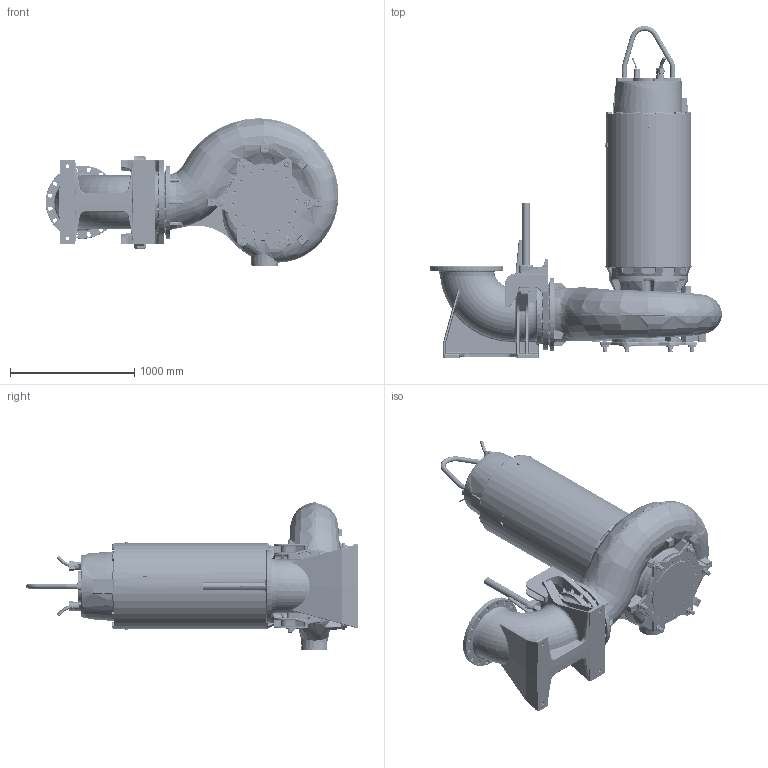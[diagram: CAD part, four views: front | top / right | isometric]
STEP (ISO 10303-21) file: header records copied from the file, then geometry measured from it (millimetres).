
FILE_DESCRIPTION (( 'STEP AP214' ), '1' );
FILE_NAME ('PE6_XFP405M-CB2_WET_C_NG2.STEP', '2017-03-29T06:22:00', ( '' ), ( '' ), 'SwSTEP 2.0', 'SolidWorks 2017', '' );
FILE_SCHEMA (( 'AUTOMOTIVE_DESIGN' ));
Length unit declared in the file: millimetre
Products named in the file (1): PE6_XFP405M-CB2_WET_C_NG2
Bounding box: 2353 x 2668.9 x 1184.25 mm (x, y, z)
Volume: 1146109910.7 mm3; surface area: 14271968.4 mm2
Topology: 4 solids, 40 shells, 5712 faces, 14017 edges, 8224 vertices
Faces by surface type: cylinder 1537, plane 1388, bspline 1280, cone 686, torus 579, sphere 242
Entity records: 336528 total; most frequent: CARTESIAN_POINT 150321, ORIENTED_EDGE 27406, DIRECTION 23929, EDGE_CURVE 13703, AXIS2_PLACEMENT_3D 9654, VERTEX_POINT 8218, EDGE_LOOP 6069, UNCERTAINTY_MEASURE_WITH_UNIT 5718
